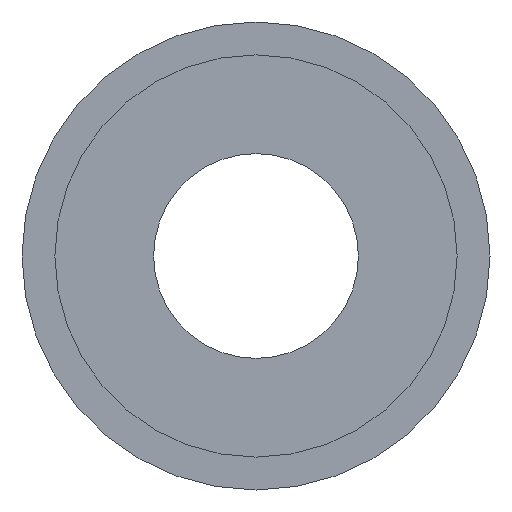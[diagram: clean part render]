
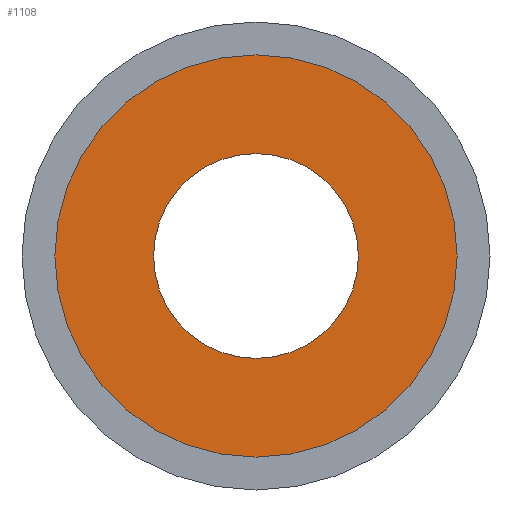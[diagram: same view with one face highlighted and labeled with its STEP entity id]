
A CAD part, front view. The second image highlights one B-rep face of the part: STEP entity #1108.
In plain terms, the highlighted planar face has unit normal (0, -1, 0).
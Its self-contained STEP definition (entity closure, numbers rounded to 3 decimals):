
#105 = VERTEX_POINT ( 'NONE', #2470 ) ;
#158 = VERTEX_POINT ( 'NONE', #1429 ) ;
#222 = EDGE_LOOP ( 'NONE', ( #2366, #2417 ) ) ;
#394 = EDGE_CURVE ( 'NONE', #158, #535, #1401, .T. ) ;
#493 = EDGE_CURVE ( 'NONE', #535, #158, #2271, .T. ) ;
#498 = CARTESIAN_POINT ( 'NONE',  ( 0., -14., 14. ) ) ;
#535 = VERTEX_POINT ( 'NONE', #907 ) ;
#641 = CARTESIAN_POINT ( 'NONE',  ( 0., -14., 0. ) ) ;
#660 = DIRECTION ( 'NONE',  ( 0., 0., -1. ) ) ;
#766 = FACE_OUTER_BOUND ( 'NONE', #222, .T. ) ;
#907 = CARTESIAN_POINT ( 'NONE',  ( 0., -14., 14. ) ) ;
#929 = ORIENTED_EDGE ( 'NONE', *, *, #493, .F. ) ;
#1072 = CARTESIAN_POINT ( 'NONE',  ( 0., -14., 0. ) ) ;
#1094 = DIRECTION ( 'NONE',  ( 0., 0., -1. ) ) ;
#1108 = ADVANCED_FACE ( 'NONE', ( #1912, #766 ), #1617, .F. ) ;
#1120 = AXIS2_PLACEMENT_3D ( 'NONE', #2862, #1527, #1988 ) ;
#1132 = AXIS2_PLACEMENT_3D ( 'NONE', #498, #1801, #1808 ) ;
#1288 = DIRECTION ( 'NONE',  ( 0., -1., 0. ) ) ;
#1293 = AXIS2_PLACEMENT_3D ( 'NONE', #641, #2223, #1094 ) ;
#1401 = CIRCLE ( 'NONE', #1562, 14. ) ;
#1429 = CARTESIAN_POINT ( 'NONE',  ( 0., -14., -14. ) ) ;
#1490 = EDGE_CURVE ( 'NONE', #1518, #105, #2625, .T. ) ;
#1503 = DIRECTION ( 'NONE',  ( 0., 0., -1. ) ) ;
#1518 = VERTEX_POINT ( 'NONE', #1779 ) ;
#1527 = DIRECTION ( 'NONE',  ( 0., -1., 0. ) ) ;
#1562 = AXIS2_PLACEMENT_3D ( 'NONE', #1964, #2866, #1503 ) ;
#1617 = PLANE ( 'NONE',  #1132 ) ;
#1779 = CARTESIAN_POINT ( 'NONE',  ( 0., -14., -27.5 ) ) ;
#1801 = DIRECTION ( 'NONE',  ( 0., 1., 0. ) ) ;
#1808 = DIRECTION ( 'NONE',  ( 0., 0., 1. ) ) ;
#1859 = EDGE_LOOP ( 'NONE', ( #2501, #929 ) ) ;
#1912 = FACE_BOUND ( 'NONE', #1859, .T. ) ;
#1964 = CARTESIAN_POINT ( 'NONE',  ( 0., -14., 0. ) ) ;
#1988 = DIRECTION ( 'NONE',  ( 0., 0., -1. ) ) ;
#2126 = EDGE_CURVE ( 'NONE', #105, #1518, #2339, .T. ) ;
#2223 = DIRECTION ( 'NONE',  ( 0., -1., 0. ) ) ;
#2271 = CIRCLE ( 'NONE', #1293, 14. ) ;
#2339 = CIRCLE ( 'NONE', #2495, 27.5 ) ;
#2366 = ORIENTED_EDGE ( 'NONE', *, *, #1490, .T. ) ;
#2417 = ORIENTED_EDGE ( 'NONE', *, *, #2126, .T. ) ;
#2470 = CARTESIAN_POINT ( 'NONE',  ( 0., -14., 27.5 ) ) ;
#2495 = AXIS2_PLACEMENT_3D ( 'NONE', #1072, #1288, #660 ) ;
#2501 = ORIENTED_EDGE ( 'NONE', *, *, #394, .F. ) ;
#2625 = CIRCLE ( 'NONE', #1120, 27.5 ) ;
#2862 = CARTESIAN_POINT ( 'NONE',  ( 0., -14., 0. ) ) ;
#2866 = DIRECTION ( 'NONE',  ( 0., -1., 0. ) ) ;
